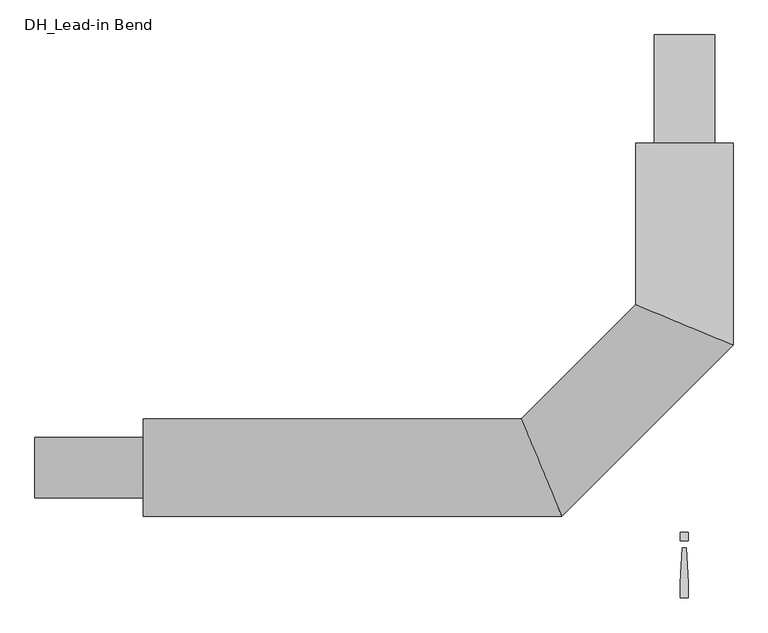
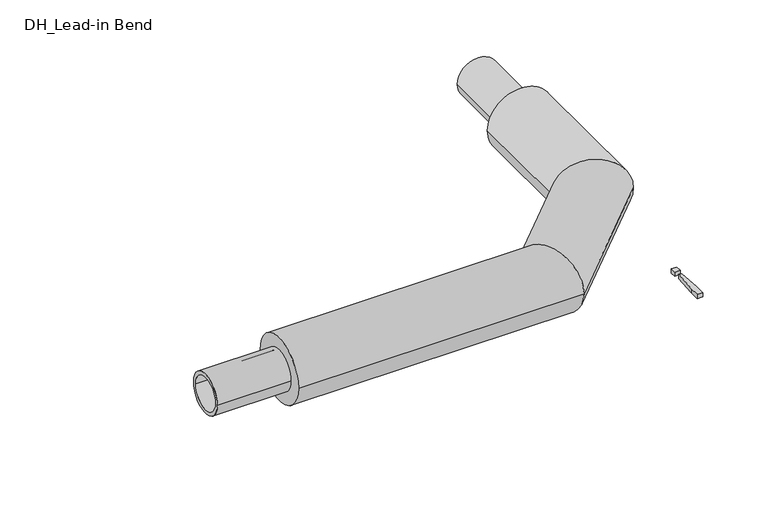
"""IFC4 building model written with IfcOpenShell, lengths in millimetres: pipe fitting geometry, DH_Lead-in Bend : INSULPEX UNO + 11 Heating."""

from ifc_helpers import new_model, si_unit, point, frame, origin, origin_with_axes, origin_2d, place, context, project, spatial, polyline, circle_curve, ellipse_curve, trimmed, segment, composite_curve, outline, extrude, source, transform, mapped, element, save
from ifc_brep_helpers import plane_surface, cylinder_surface, advanced_brep


def dh_lead_in_bend_8204d9dc(model_context):
    return source(origin(), model_context, "Body", "SolidModel", [
        advanced_brep(
        [(-1250.0, -112.5, 0.0), (-1250.0, 112.5, 0.0), (-283.4009742, -112.5, 0.0), (-376.5990258, 112.5, 0.0), (112.5, 750.0, 0.0), (-112.5, 750.0, 0.0), (-112.5, 376.5990258, 0.0), (112.5, 283.4009742, 0.0)],
        [
            (0, 1, circle_curve(frame((-1250.0, 0.0, 0.0), z_axis=(-1.0, 0.0, 0.0), x_axis=(0.0, 1.0, 0.0)), 112.5)),
            (1, 0, circle_curve(frame((-1250.0, 0.0, 0.0), z_axis=(-1.0, 0.0, 0.0), x_axis=(0.0, 1.0, 0.0)), 112.5)),
            (0, 2),
            (2, 3, ellipse_curve(frame((-330.0, 0.0, 0.0), z_axis=(-0.9238795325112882, -0.38268343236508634, 0.0), x_axis=(-0.38268343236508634, 0.9238795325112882, 0.0)), 121.7691225, 112.5)),
            (3, 1),
            (3, 2, ellipse_curve(frame((-330.0, 0.0, 0.0), z_axis=(-0.9238795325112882, -0.38268343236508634, 0.0), x_axis=(-0.38268343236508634, 0.9238795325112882, 0.0)), 121.7691225, 112.5)),
            (4, 5, circle_curve(frame((0.0, 750.0, 0.0), z_axis=(0.0, 1.0, 0.0), x_axis=(-1.0, 0.0, 0.0)), 112.5)),
            (5, 4, circle_curve(frame((0.0, 750.0, 0.0), z_axis=(0.0, 1.0, 0.0), x_axis=(-1.0, 0.0, 0.0)), 112.5)),
            (6, 7, ellipse_curve(frame((0.0, 330.0, 0.0), z_axis=(0.38268343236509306, 0.9238795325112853, 0.0), x_axis=(0.9238795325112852, -0.3826834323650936, 0.0)), 121.7691225, 112.5)),
            (7, 4),
            (5, 6),
            (7, 6, ellipse_curve(frame((0.0, 330.0, 0.0), z_axis=(0.38268343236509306, 0.9238795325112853, 0.0), x_axis=(0.9238795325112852, -0.3826834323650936, 0.0)), 121.7691225, 112.5)),
            (2, 7),
            (6, 3),
        ],
        [
            plane_surface(frame((-1250.0, 0.0, 0.0), z_axis=(-1.0, 0.0, 0.0), x_axis=(0.0, 0.0, 1.0))),
            cylinder_surface(frame((-1250.0, 0.0, 0.0), z_axis=(-1.0, 0.0, 0.0), x_axis=(0.0, 1.0, 0.0)), 112.5),
            plane_surface(frame((0.0, 750.0, 0.0), z_axis=(0.0, 1.0, 0.0), x_axis=(0.0, 0.0, 1.0))),
            cylinder_surface(frame((0.0, 330.0, 0.0), z_axis=(0.0, -1.0, 0.0), x_axis=(-1.0, 0.0, 0.0)), 112.5),
            cylinder_surface(frame((-330.0, 0.0, 0.0), z_axis=(-0.7071067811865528, -0.7071067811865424, 0.0), x_axis=(-0.7071067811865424, 0.7071067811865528, 0.0)), 112.5),
        ],
        [
            (0, [[1, 2]]),
            (1, [[-1, 3, 4, 5]]),
            (1, [[-2, -5, 6, -3]]),
            (2, [[7, 8]]),
            (3, [[9, 10, -8, 11]]),
            (3, [[12, -11, -7, -10]]),
            (4, [[-4, 13, -9, 14]]),
            (4, [[-6, -14, -12, -13]]),
        ],
    ),
        extrude(outline(polyline([(4.7088895, -185.3166715), (9.4177791, -266.6553807), (9.4177791, -300.6844652), (-9.4177791, -300.6844652), (-9.4177791, -266.6553807), (-4.7088895, -185.3166715), (4.7088895, -185.3166715)])), origin_with_axes(), (0.0, 0.0, 1.0), 15.0),
        extrude(outline(polyline([(9.4177791, -150.0), (9.4177791, -168.8355582), (-9.4177791, -168.8355582), (-9.4177791, -150.0), (9.4177791, -150.0)])), origin_with_axes(), (0.0, 0.0, 1.0), 15.0),
        extrude(outline(composite_curve([segment(trimmed(circle_curve(origin_2d(), 70.0), [point((-70.0, 0.0))], [point((70.0, 0.0))], False, "CARTESIAN"), True, "CONTINUOUS"), segment(trimmed(circle_curve(origin_2d(), 70.0), [point((70.0, 0.0))], [point((-70.0, 0.0))], False, "CARTESIAN"), True, "CONTINUOUS")], self_intersect=False), holes=[composite_curve([segment(trimmed(circle_curve(origin_2d(), 57.3), [point((-57.3, 0.0))], [point((57.3, 0.0))], True, "CARTESIAN"), True, "CONTINUOUS"), segment(trimmed(circle_curve(origin_2d(), 57.3), [point((57.3, 0.0))], [point((-57.3, 0.0))], True, "CARTESIAN"), True, "CONTINUOUS")], self_intersect=False)]), frame((-1500.0, 0.0, 0.0), z_axis=(1.0, 0.0, 0.0), x_axis=(0.0, 1.0, 0.0)), (0.0, 0.0, 1.0), 250.0),
        extrude(outline(composite_curve([segment(trimmed(circle_curve(origin_2d(), 70.0), [point((0.0, 70.0))], [point((0.0, -70.0))], False, "CARTESIAN"), True, "CONTINUOUS"), segment(trimmed(circle_curve(origin_2d(), 70.0), [point((0.0, -70.0))], [point((0.0, 70.0))], False, "CARTESIAN"), True, "CONTINUOUS")], self_intersect=False), holes=[composite_curve([segment(trimmed(circle_curve(origin_2d(), 57.3), [point((0.0, 57.3))], [point((0.0, -57.3))], True, "CARTESIAN"), True, "CONTINUOUS"), segment(trimmed(circle_curve(origin_2d(), 57.3), [point((0.0, -57.3))], [point((0.0, 57.3))], True, "CARTESIAN"), True, "CONTINUOUS")], self_intersect=False)]), frame((0.0, 750.0, 0.0), z_axis=(0.0, 1.0, 0.0), x_axis=(0.0, 0.0, 1.0)), (0.0, 0.0, 1.0), 250.0),
    ])


if __name__ == "__main__":
    model = new_model("IFC4")
    model_context = context("Model", 3, world=origin())
    ifc_project = project(units=[si_unit("LENGTHUNIT", "METRE", prefix="MILLI")], contexts=[model_context])
    site = spatial("IfcSite", under=ifc_project)
    building = spatial("IfcBuilding", under=site)
    placement = place(None, origin())
    dh_lead_in_bend_shape = dh_lead_in_bend_8204d9dc(model_context)
    element("IfcPipeFitting", 1, ObjectType="DH_Lead-in Bend : INSULPEX UNO + 11 Heating", at=placement, inside=building, context=model_context, shape_type="MappedRepresentation", body=[
        mapped(dh_lead_in_bend_shape, transform((0.0, 0.0, 0.0), x_axis=(1.0, 0.0, 0.0), y_axis=(0.0, 1.0, 0.0), z_axis=(0.0, 0.0, 1.0))),
    ])
    save(model, "model.ifc")
